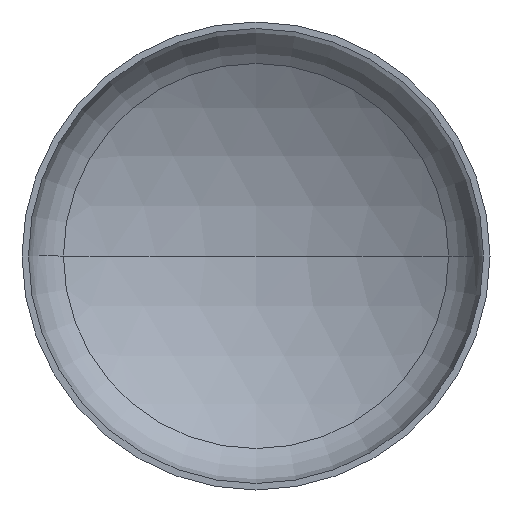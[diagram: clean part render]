
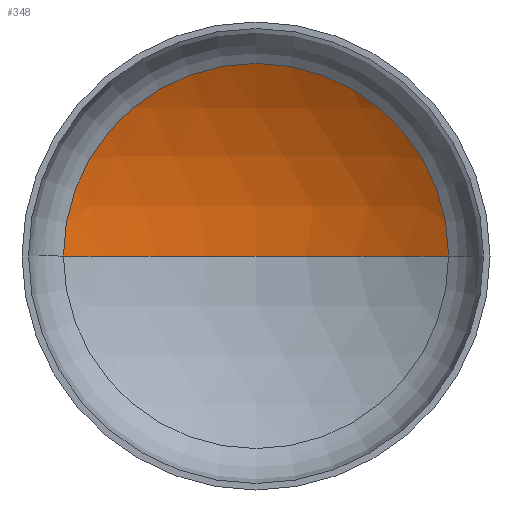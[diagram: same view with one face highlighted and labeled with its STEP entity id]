
A CAD part, front view. The second image highlights one B-rep face of the part: STEP entity #348.
In plain terms, the highlighted spherical face has radius 2240 mm.
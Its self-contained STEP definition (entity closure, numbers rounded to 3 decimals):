
#13 = AXIS2_PLACEMENT_3D ( 'NONE', #320, #140, #155 ) ;
#20 = AXIS2_PLACEMENT_3D ( 'NONE', #63, #285, #290 ) ;
#21 = AXIS2_PLACEMENT_3D ( 'NONE', #147, #150, #126 ) ;
#23 = CIRCLE ( 'NONE', #20, 2240. ) ;
#34 = EDGE_LOOP ( 'NONE', ( #168, #158, #88 ) ) ;
#63 = CARTESIAN_POINT ( 'NONE',  ( 0., -1432.205, 0. ) ) ;
#64 = VERTEX_POINT ( 'NONE', #265 ) ;
#88 = ORIENTED_EDGE ( 'NONE', *, *, #337, .T. ) ;
#112 = VERTEX_POINT ( 'NONE', #274 ) ;
#126 = DIRECTION ( 'NONE',  ( 1., 0., 0. ) ) ;
#140 = DIRECTION ( 'NONE',  ( 0., 0., -1. ) ) ;
#147 = CARTESIAN_POINT ( 'NONE',  ( 0., 488.756, 0. ) ) ;
#150 = DIRECTION ( 'NONE',  ( 0., -1., 0. ) ) ;
#155 = DIRECTION ( 'NONE',  ( -1., 0., 0. ) ) ;
#158 = ORIENTED_EDGE ( 'NONE', *, *, #340, .T. ) ;
#168 = ORIENTED_EDGE ( 'NONE', *, *, #381, .F. ) ;
#174 = CIRCLE ( 'NONE', #21, 1152.177 ) ;
#180 = DIRECTION ( 'NONE',  ( 0., 0., 1. ) ) ;
#233 = FACE_OUTER_BOUND ( 'NONE', #34, .T. ) ;
#240 = VERTEX_POINT ( 'NONE', #258 ) ;
#258 = CARTESIAN_POINT ( 'NONE',  ( 1152.177, 488.756, 0. ) ) ;
#265 = CARTESIAN_POINT ( 'NONE',  ( -1152.177, 488.756, 0. ) ) ;
#266 = CIRCLE ( 'NONE', #404, 2240. ) ;
#274 = CARTESIAN_POINT ( 'NONE',  ( 0., 807.795, 0. ) ) ;
#285 = DIRECTION ( 'NONE',  ( 0., 0., -1. ) ) ;
#290 = DIRECTION ( 'NONE',  ( -1., 0., 0. ) ) ;
#320 = CARTESIAN_POINT ( 'NONE',  ( 0., -1432.205, 0. ) ) ;
#337 = EDGE_CURVE ( 'NONE', #240, #64, #174, .T. ) ;
#340 = EDGE_CURVE ( 'NONE', #112, #240, #23, .T. ) ;
#348 = ADVANCED_FACE ( 'NONE', ( #233 ), #411, .F. ) ;
#352 = DIRECTION ( 'NONE',  ( 1., 0., 0. ) ) ;
#381 = EDGE_CURVE ( 'NONE', #112, #64, #266, .T. ) ;
#399 = CARTESIAN_POINT ( 'NONE',  ( 0., -1432.205, 0. ) ) ;
#404 = AXIS2_PLACEMENT_3D ( 'NONE', #399, #180, #352 ) ;
#411 = SPHERICAL_SURFACE ( 'NONE', #13, 2240. ) ;
